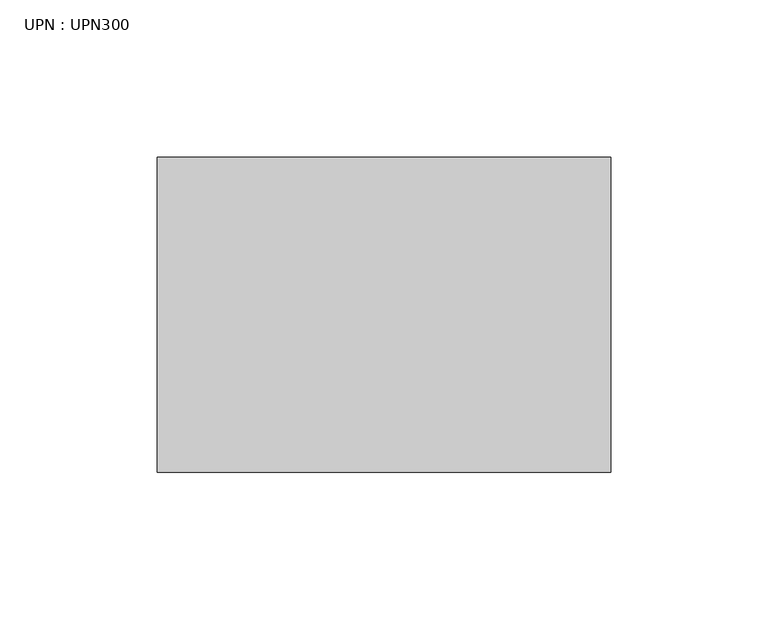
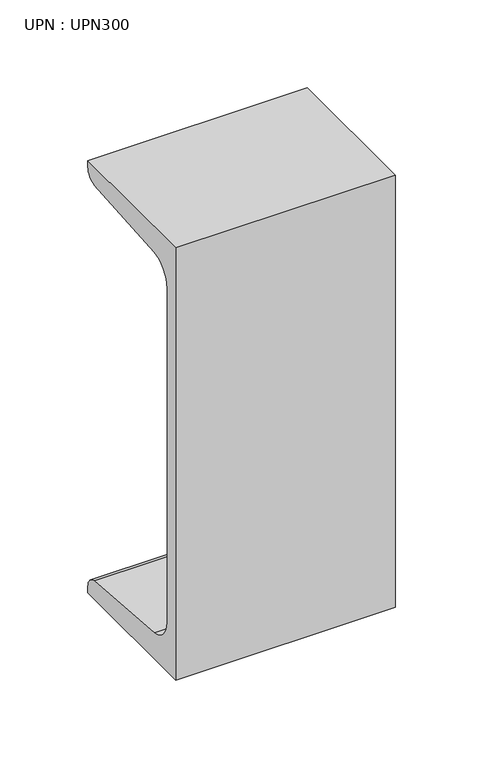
"""IFC4 building model written with IfcOpenShell, lengths in millimetres: beam geometry, UPN : UPN300."""

from ifc_helpers import new_model, si_unit, point, frame, frame_2d, origin, place, context, project, spatial, polyline, circle_curve, trimmed, segment, composite_curve, outline, extrude, source, transform, mapped, element, save


def upn_upn300_4b6d5451(model_context):
    return source(origin(), model_context, "Body", "SweptSolid", [
        extrude(outline(composite_curve([segment(polyline([(-27.0, 150.0), (73.0, 150.0), (73.0, 145.3826224)]), True, "CONTINUOUS"), segment(trimmed(circle_curve(frame_2d((65.0, 145.3826224)), 8.0), [point((73.0, 145.3826224))], [point((65.637416, 137.4080566))], False, "CARTESIAN"), True, "CONTINUOUS"), segment(polyline([(65.637416, 137.4080566), (-2.274832, 131.9797543)]), True, "CONTINUOUS"), segment(trimmed(circle_curve(frame_2d((-1.0, 116.0306225)), 16.0), [point((-2.274832, 131.9797543))], [point((-17.0, 116.0306225))], True, "CARTESIAN"), True, "CONTINUOUS"), segment(polyline([(-17.0, 116.0306225), (-17.0, -116.0306225)]), True, "CONTINUOUS"), segment(trimmed(circle_curve(frame_2d((-1.0, -116.0306225)), 16.0), [point((-17.0, -116.0306225))], [point((-2.274832, -131.9797543))], True, "CARTESIAN"), True, "CONTINUOUS"), segment(polyline([(-2.274832, -131.9797543), (65.637416, -137.4080566)]), True, "CONTINUOUS"), segment(trimmed(circle_curve(frame_2d((65.0, -145.3826224)), 8.0), [point((65.637416, -137.4080566))], [point((73.0, -145.3826224))], False, "CARTESIAN"), True, "CONTINUOUS"), segment(polyline([(73.0, -145.3826224), (73.0, -150.0), (-27.0, -150.0), (-27.0, 150.0)]), True, "CONTINUOUS")], self_intersect=False)), frame((-189.15, 0.0, 0.0), z_axis=(1.0, 0.0, 0.0), x_axis=(0.0, 1.0, 0.0)), (0.0, 0.0, 1.0), 143.9),
    ])


if __name__ == "__main__":
    model = new_model("IFC4")
    model_context = context("Model", 3, world=origin())
    ifc_project = project(units=[si_unit("LENGTHUNIT", "METRE", prefix="MILLI")], contexts=[model_context])
    site = spatial("IfcSite", under=ifc_project)
    building = spatial("IfcBuilding", under=site)
    placement = place(None, origin())
    upn_upn300_shape = upn_upn300_4b6d5451(model_context)
    element("IfcBeam", 1, ObjectType="UPN : UPN300", at=placement, inside=building, context=model_context, shape_type="MappedRepresentation", body=[
        mapped(upn_upn300_shape, transform((0.0, 0.0, 0.0), x_axis=(1.0, 0.0, 0.0), y_axis=(0.0, 1.0, 0.0), z_axis=(0.0, 0.0, 1.0))),
    ])
    save(model, "model.ifc")
